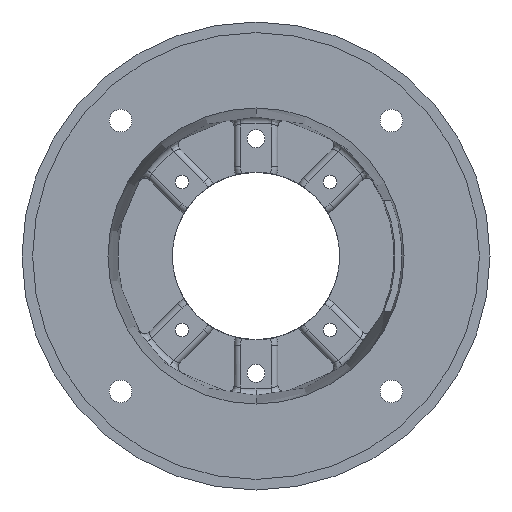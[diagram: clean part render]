
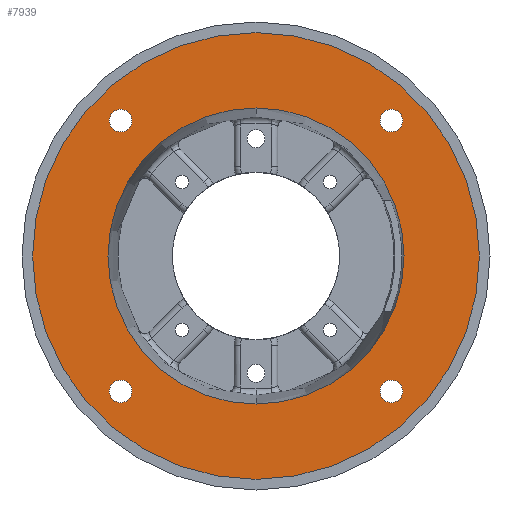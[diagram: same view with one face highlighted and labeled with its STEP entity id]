
A CAD part, front view. The second image highlights one B-rep face of the part: STEP entity #7939.
In plain terms, the highlighted planar face has unit normal (0, -1, 0).
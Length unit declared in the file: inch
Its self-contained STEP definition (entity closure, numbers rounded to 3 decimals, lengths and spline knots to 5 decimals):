
#67 = EDGE_CURVE ( 'NONE', #7869, #637, #2532, .T. ) ;
#72 = EDGE_CURVE ( 'NONE', #7943, #7169, #7440, .T. ) ;
#87 = VERTEX_POINT ( 'NONE', #5740 ) ;
#97 = AXIS2_PLACEMENT_3D ( 'NONE', #6396, #466, #7343 ) ;
#466 = DIRECTION ( 'NONE',  ( 0., -1., 0. ) ) ;
#534 = VERTEX_POINT ( 'NONE', #3979 ) ;
#554 = DIRECTION ( 'NONE',  ( 0., 0., -1. ) ) ;
#637 = VERTEX_POINT ( 'NONE', #3450 ) ;
#939 = EDGE_CURVE ( 'NONE', #534, #8632, #8411, .T. ) ;
#941 = AXIS2_PLACEMENT_3D ( 'NONE', #11956, #6485, #554 ) ;
#1085 = DIRECTION ( 'NONE',  ( 0., 0., -1. ) ) ;
#1088 = DIRECTION ( 'NONE',  ( 0., -1., 0. ) ) ;
#1099 = CARTESIAN_POINT ( 'NONE',  ( 3.18198, 0.18, 3.18198 ) ) ;
#1101 = ORIENTED_EDGE ( 'NONE', *, *, #5193, .F. ) ;
#1301 = EDGE_CURVE ( 'NONE', #10895, #2254, #10943, .T. ) ;
#1536 = CARTESIAN_POINT ( 'NONE',  ( 0., 0.18, 3.47973 ) ) ;
#1594 = AXIS2_PLACEMENT_3D ( 'NONE', #5683, #12139, #6675 ) ;
#1759 = AXIS2_PLACEMENT_3D ( 'NONE', #1099, #1088, #1085 ) ;
#1813 = CARTESIAN_POINT ( 'NONE',  ( 3.18198, 0.18, -2.91636 ) ) ;
#1913 = CARTESIAN_POINT ( 'NONE',  ( 0., 0.18, 0. ) ) ;
#2030 = FACE_OUTER_BOUND ( 'NONE', #12176, .T. ) ;
#2212 = CARTESIAN_POINT ( 'NONE',  ( 3.18198, 0.18, -3.44761 ) ) ;
#2254 = VERTEX_POINT ( 'NONE', #2212 ) ;
#2318 = FACE_BOUND ( 'NONE', #3494, .T. ) ;
#2532 = CIRCLE ( 'NONE', #5125, 0.26562 ) ;
#2567 = EDGE_CURVE ( 'NONE', #7846, #10801, #7369, .T. ) ;
#2638 = DIRECTION ( 'NONE',  ( 0., -1., 0. ) ) ;
#2890 = DIRECTION ( 'NONE',  ( 0., 0., -1. ) ) ;
#2902 = EDGE_CURVE ( 'NONE', #5872, #87, #10530, .T. ) ;
#3080 = ORIENTED_EDGE ( 'NONE', *, *, #2902, .T. ) ;
#3082 = AXIS2_PLACEMENT_3D ( 'NONE', #3520, #10168, #4509 ) ;
#3283 = ORIENTED_EDGE ( 'NONE', *, *, #939, .F. ) ;
#3392 = EDGE_CURVE ( 'NONE', #7169, #7943, #6023, .T. ) ;
#3450 = CARTESIAN_POINT ( 'NONE',  ( -3.18198, 0.18, -3.44761 ) ) ;
#3494 = EDGE_LOOP ( 'NONE', ( #5995, #7493 ) ) ;
#3520 = CARTESIAN_POINT ( 'NONE',  ( -3.18198, 0.18, -3.18198 ) ) ;
#3667 = CARTESIAN_POINT ( 'NONE',  ( 0., 0.18, 0. ) ) ;
#3979 = CARTESIAN_POINT ( 'NONE',  ( 3.18198, 0.18, 2.91636 ) ) ;
#4038 = EDGE_CURVE ( 'NONE', #637, #7869, #4608, .T. ) ;
#4069 = AXIS2_PLACEMENT_3D ( 'NONE', #3667, #10313, #4661 ) ;
#4098 = ORIENTED_EDGE ( 'NONE', *, *, #72, .F. ) ;
#4185 = ORIENTED_EDGE ( 'NONE', *, *, #2567, .T. ) ;
#4369 = ORIENTED_EDGE ( 'NONE', *, *, #8572, .T. ) ;
#4509 = DIRECTION ( 'NONE',  ( 0., 0., -1. ) ) ;
#4608 = CIRCLE ( 'NONE', #3082, 0.26562 ) ;
#4642 = FACE_BOUND ( 'NONE', #9188, .T. ) ;
#4661 = DIRECTION ( 'NONE',  ( 0., 0., -1. ) ) ;
#4747 = EDGE_LOOP ( 'NONE', ( #4964, #4098 ) ) ;
#4875 = CIRCLE ( 'NONE', #11847, 0.26562 ) ;
#4964 = ORIENTED_EDGE ( 'NONE', *, *, #3392, .F. ) ;
#5125 = AXIS2_PLACEMENT_3D ( 'NONE', #6199, #6175, #6141 ) ;
#5193 = EDGE_CURVE ( 'NONE', #2254, #10895, #4875, .T. ) ;
#5314 = AXIS2_PLACEMENT_3D ( 'NONE', #8454, #2638, #9355 ) ;
#5340 = DIRECTION ( 'NONE',  ( 0., -1., 0. ) ) ;
#5421 = DIRECTION ( 'NONE',  ( 0., -1., 0. ) ) ;
#5683 = CARTESIAN_POINT ( 'NONE',  ( 0., 0.18, 0. ) ) ;
#5740 = CARTESIAN_POINT ( 'NONE',  ( 0., 0.18, 5.2505 ) ) ;
#5816 = AXIS2_PLACEMENT_3D ( 'NONE', #6106, #6017, #6087 ) ;
#5872 = VERTEX_POINT ( 'NONE', #8775 ) ;
#5995 = ORIENTED_EDGE ( 'NONE', *, *, #4038, .F. ) ;
#6017 = DIRECTION ( 'NONE',  ( 0., -1., 0. ) ) ;
#6023 = CIRCLE ( 'NONE', #941, 0.26562 ) ;
#6087 = DIRECTION ( 'NONE',  ( 0., 0., -1. ) ) ;
#6106 = CARTESIAN_POINT ( 'NONE',  ( -3.18198, 0.18, 3.18198 ) ) ;
#6141 = DIRECTION ( 'NONE',  ( 0., 0., -1. ) ) ;
#6175 = DIRECTION ( 'NONE',  ( 0., -1., 0. ) ) ;
#6199 = CARTESIAN_POINT ( 'NONE',  ( -3.18198, 0.18, -3.18198 ) ) ;
#6229 = DIRECTION ( 'NONE',  ( 0., 0., -1. ) ) ;
#6267 = DIRECTION ( 'NONE',  ( 0., -1., 0. ) ) ;
#6314 = CARTESIAN_POINT ( 'NONE',  ( 3.18198, 0.18, -3.18198 ) ) ;
#6396 = CARTESIAN_POINT ( 'NONE',  ( 0., 0.18, 0. ) ) ;
#6485 = DIRECTION ( 'NONE',  ( 0., -1., 0. ) ) ;
#6663 = CARTESIAN_POINT ( 'NONE',  ( -3.18198, 0.18, 3.44761 ) ) ;
#6675 = DIRECTION ( 'NONE',  ( 0., 0., -1. ) ) ;
#6761 = EDGE_LOOP ( 'NONE', ( #1101, #8058 ) ) ;
#6794 = ORIENTED_EDGE ( 'NONE', *, *, #7882, .T. ) ;
#7169 = VERTEX_POINT ( 'NONE', #10051 ) ;
#7227 = FACE_BOUND ( 'NONE', #6761, .T. ) ;
#7343 = DIRECTION ( 'NONE',  ( 0., 0., -1. ) ) ;
#7369 = CIRCLE ( 'NONE', #1594, 3.47973 ) ;
#7440 = CIRCLE ( 'NONE', #5816, 0.26562 ) ;
#7493 = ORIENTED_EDGE ( 'NONE', *, *, #67, .F. ) ;
#7507 = AXIS2_PLACEMENT_3D ( 'NONE', #1913, #8674, #2890 ) ;
#7846 = VERTEX_POINT ( 'NONE', #10898 ) ;
#7869 = VERTEX_POINT ( 'NONE', #11839 ) ;
#7882 = EDGE_CURVE ( 'NONE', #87, #5872, #10250, .T. ) ;
#7939 = ADVANCED_FACE ( 'NONE', ( #12087, #4642, #7227, #2318, #2030, #11784 ), #9386, .T. ) ;
#7943 = VERTEX_POINT ( 'NONE', #6663 ) ;
#8058 = ORIENTED_EDGE ( 'NONE', *, *, #1301, .F. ) ;
#8411 = CIRCLE ( 'NONE', #1759, 0.26562 ) ;
#8454 = CARTESIAN_POINT ( 'NONE',  ( 0., 0.18, 0. ) ) ;
#8572 = EDGE_CURVE ( 'NONE', #10801, #7846, #10803, .T. ) ;
#8632 = VERTEX_POINT ( 'NONE', #8756 ) ;
#8674 = DIRECTION ( 'NONE',  ( 0., 1., 0. ) ) ;
#8756 = CARTESIAN_POINT ( 'NONE',  ( 3.18198, 0.18, 3.44761 ) ) ;
#8775 = CARTESIAN_POINT ( 'NONE',  ( 0., 0.18, -5.2505 ) ) ;
#8814 = EDGE_CURVE ( 'NONE', #8632, #534, #8817, .T. ) ;
#8817 = CIRCLE ( 'NONE', #10351, 0.26562 ) ;
#9188 = EDGE_LOOP ( 'NONE', ( #3283, #9901 ) ) ;
#9355 = DIRECTION ( 'NONE',  ( 0., 0., -1. ) ) ;
#9386 = PLANE ( 'NONE',  #4069 ) ;
#9868 = AXIS2_PLACEMENT_3D ( 'NONE', #6314, #6267, #6229 ) ;
#9901 = ORIENTED_EDGE ( 'NONE', *, *, #8814, .F. ) ;
#10040 = EDGE_LOOP ( 'NONE', ( #4185, #4369 ) ) ;
#10051 = CARTESIAN_POINT ( 'NONE',  ( -3.18198, 0.18, 2.91636 ) ) ;
#10168 = DIRECTION ( 'NONE',  ( 0., -1., 0. ) ) ;
#10250 = CIRCLE ( 'NONE', #97, 5.2505 ) ;
#10313 = DIRECTION ( 'NONE',  ( 0., -1., 0. ) ) ;
#10351 = AXIS2_PLACEMENT_3D ( 'NONE', #10996, #5421, #11900 ) ;
#10530 = CIRCLE ( 'NONE', #5314, 5.2505 ) ;
#10801 = VERTEX_POINT ( 'NONE', #1536 ) ;
#10803 = CIRCLE ( 'NONE', #7507, 3.47973 ) ;
#10895 = VERTEX_POINT ( 'NONE', #1813 ) ;
#10898 = CARTESIAN_POINT ( 'NONE',  ( 0., 0.18, -3.47973 ) ) ;
#10929 = CARTESIAN_POINT ( 'NONE',  ( 3.18198, 0.18, -3.18198 ) ) ;
#10943 = CIRCLE ( 'NONE', #9868, 0.26562 ) ;
#10996 = CARTESIAN_POINT ( 'NONE',  ( 3.18198, 0.18, 3.18198 ) ) ;
#11784 = FACE_BOUND ( 'NONE', #10040, .T. ) ;
#11834 = DIRECTION ( 'NONE',  ( 0., 0., -1. ) ) ;
#11839 = CARTESIAN_POINT ( 'NONE',  ( -3.18198, 0.18, -2.91636 ) ) ;
#11847 = AXIS2_PLACEMENT_3D ( 'NONE', #10929, #5340, #11834 ) ;
#11900 = DIRECTION ( 'NONE',  ( 0., 0., -1. ) ) ;
#11956 = CARTESIAN_POINT ( 'NONE',  ( -3.18198, 0.18, 3.18198 ) ) ;
#12087 = FACE_BOUND ( 'NONE', #4747, .T. ) ;
#12139 = DIRECTION ( 'NONE',  ( 0., 1., 0. ) ) ;
#12176 = EDGE_LOOP ( 'NONE', ( #3080, #6794 ) ) ;
